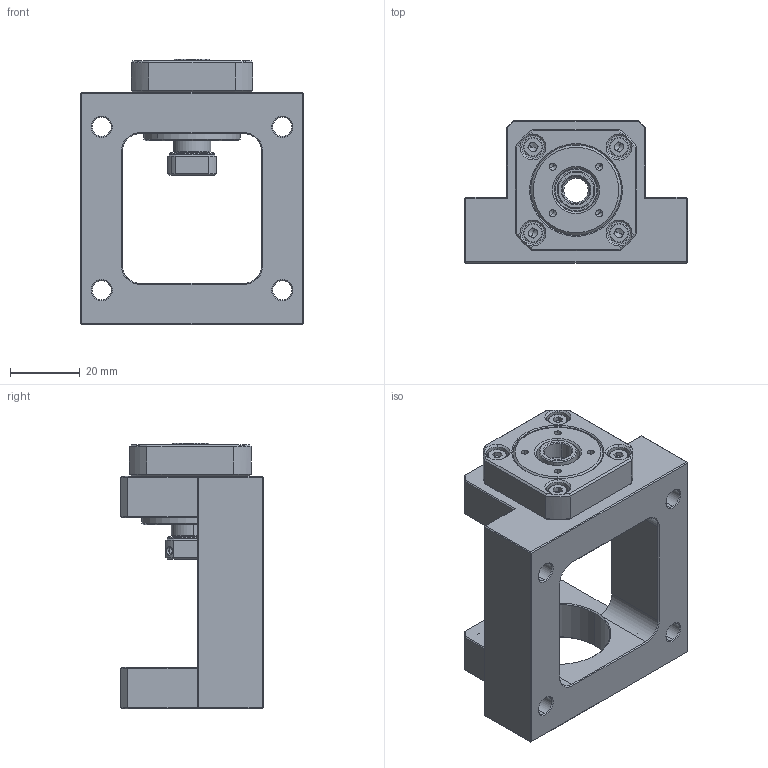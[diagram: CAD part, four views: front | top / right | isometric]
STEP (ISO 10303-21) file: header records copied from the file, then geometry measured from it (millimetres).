
FILE_DESCRIPTION (( 'STEP AP214' ), '1' );
FILE_NAME ('SJU08B.STEP', '2009-06-01T02:08:36', ( '歜煽繹' ), ( '' ), 'SwSTEP 2.0', 'SolidWorks 2007', '' );
FILE_SCHEMA (( 'AUTOMOTIVE_DESIGN' ));
Length unit declared in the file: millimetre
Products named in the file (14): SFK08_EN-1_ル遽; EN8_ル遽; HOUSING_SFK08_橾奩晝_晦獄 撲薑; COLLAR-1_SFK08_晦獄 撲薑; COLLAR-2_SFK08_晦獄 撲薑; SEAL_白12x白18x3_晦獄 撲薑; SET PIECE_白2.3x1_晦獄 撲薑; Socket Set Screw Flat Point_AM_B18.3.6M - M3 x 0.5 x 3 Hex Socket Flat Pt. SS --N_B18.3.6M - M3 x 0.5 x 3 Hex Socket Flat Pt. SS --N; RN08_晦獄 撲薑; HOUSINGLID_SFK08_晦獄 撲薑; Socket Head Cap Screw_ISO_ISO 4762 M3 x 16 --- 16N; FK08_ル遽; SJU8B_ル遽; SJU08B
Assembly tree (17 placements, depth 4):
  SJU08B
    SJU8B_ル遽
    FK08_ル遽
      Socket Head Cap Screw_ISO_ISO 4762 M3 x 16 --- 16N  x4
      SFK08_EN-1_ル遽
        Socket Set Screw Flat Point_AM_B18.3.6M - M3 x 0.5 x 3 Hex Socket Flat Pt. SS --N_B18.3.6M - M3 x 0.5 x 3 Hex Socket Flat Pt. SS --N
        COLLAR-2_SFK08_晦獄 撲薑
        HOUSINGLID_SFK08_晦獄 撲薑
        EN8_ル遽  x2
        SEAL_白12x白18x3_晦獄 撲薑
        RN08_晦獄 撲薑
        COLLAR-1_SFK08_晦獄 撲薑
        HOUSING_SFK08_橾奩晝_晦獄 撲薑
        SET PIECE_白2.3x1_晦獄 撲薑
Bounding box: 64 x 41 x 76.5 mm (x, y, z)
Volume: 64395.1 mm3; surface area: 34760.2 mm2
Topology: 13 solids, 33 shells, 598 faces, 1395 edges, 787 vertices
Faces by surface type: plane 192, cone 172, cylinder 156, bspline 60, torus 18
Entity records: 14244 total; most frequent: CARTESIAN_POINT 3113, DIRECTION 2390, ORIENTED_EDGE 2064, EDGE_CURVE 1039, AXIS2_PLACEMENT_3D 939, VERTEX_POINT 628, EDGE_LOOP 539, VECTOR 512
